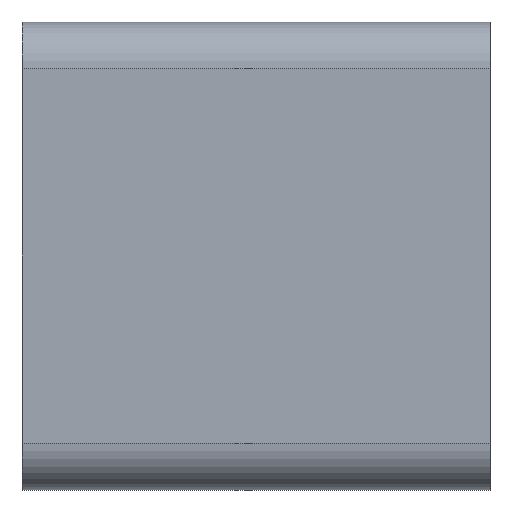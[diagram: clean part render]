
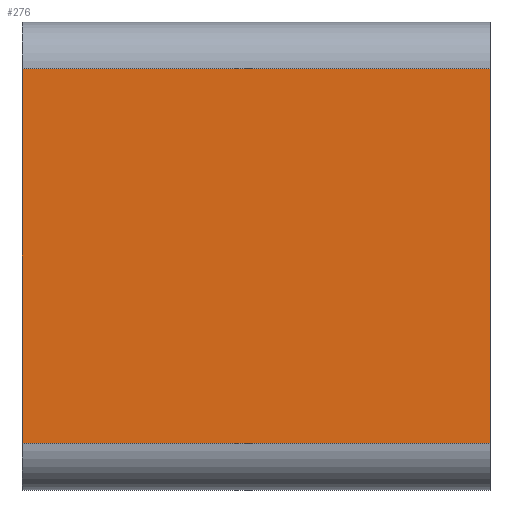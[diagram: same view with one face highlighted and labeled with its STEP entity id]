
A CAD part, left-side view. The second image highlights one B-rep face of the part: STEP entity #276.
In plain terms, the highlighted planar face has unit normal (-1, 0, 0).
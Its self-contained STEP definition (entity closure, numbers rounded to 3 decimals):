
#276=ADVANCED_FACE('',(#539),#540,.T.);
#539=FACE_OUTER_BOUND('',#790,.T.);
#540=PLANE('',#791);
#790=EDGE_LOOP('',(#1465,#1466,#1467,#1468));
#791=AXIS2_PLACEMENT_3D('',#1469,#1470,#1471);
#1465=ORIENTED_EDGE('',*,*,#1848,.T.);
#1466=ORIENTED_EDGE('',*,*,#1829,.F.);
#1467=ORIENTED_EDGE('',*,*,#1628,.F.);
#1468=ORIENTED_EDGE('',*,*,#1846,.T.);
#1469=CARTESIAN_POINT('',(-10.0,10.0,0.0));
#1470=DIRECTION('',(-1.0,0.0,0.0));
#1471=DIRECTION('',(0.0,0.0,-1.0));
#1628=EDGE_CURVE('',#1967,#1969,#1970,.T.);
#1829=EDGE_CURVE('',#1969,#2267,#2271,.T.);
#1846=EDGE_CURVE('',#1967,#2291,#2293,.T.);
#1848=EDGE_CURVE('',#2291,#2267,#2295,.T.);
#1967=VERTEX_POINT('',#2449);
#1969=VERTEX_POINT('',#2451);
#1970=LINE('',#2452,#2453);
#2267=VERTEX_POINT('',#2849);
#2271=LINE('',#2854,#2855);
#2291=VERTEX_POINT('',#2882);
#2293=LINE('',#2884,#2885);
#2295=LINE('',#2887,#2888);
#2449=CARTESIAN_POINT('',(-10.0,10.0,-8.0));
#2451=CARTESIAN_POINT('',(-10.0,10.0,8.0));
#2452=CARTESIAN_POINT('',(-10.0,10.0,-8.0));
#2453=VECTOR('',#2995,1.0);
#2849=CARTESIAN_POINT('',(-10.0,-10.0,8.0));
#2854=CARTESIAN_POINT('',(-10.0,10.0,8.0));
#2855=VECTOR('',#3246,1.0);
#2882=CARTESIAN_POINT('',(-10.0,-10.0,-8.0));
#2884=CARTESIAN_POINT('',(-10.0,10.0,-8.0));
#2885=VECTOR('',#3263,1.0);
#2887=CARTESIAN_POINT('',(-10.0,-10.0,-8.0));
#2888=VECTOR('',#3264,1.0);
#2995=DIRECTION('',(0.0,0.0,1.0));
#3246=DIRECTION('',(0.0,-1.0,0.0));
#3263=DIRECTION('',(0.0,-1.0,0.0));
#3264=DIRECTION('',(0.0,0.0,1.0));
